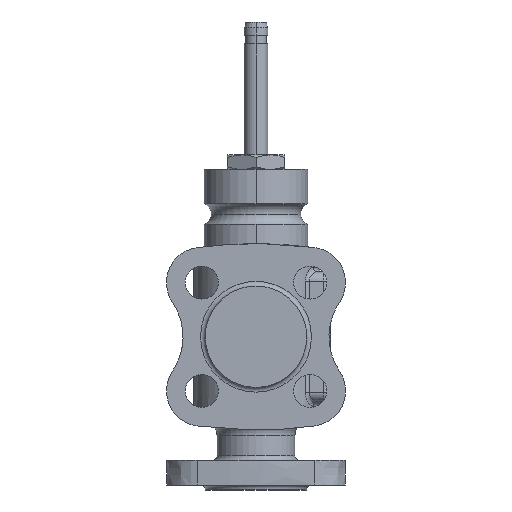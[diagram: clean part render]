
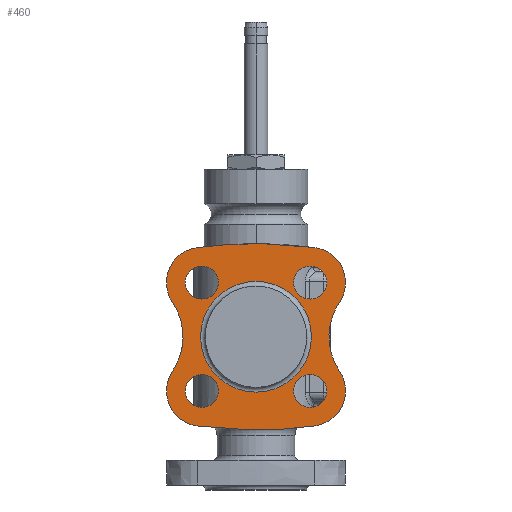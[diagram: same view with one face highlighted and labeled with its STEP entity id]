
A CAD part, left-side view. The second image highlights one B-rep face of the part: STEP entity #460.
In plain terms, the highlighted planar face has unit normal (-1, 0, 0).
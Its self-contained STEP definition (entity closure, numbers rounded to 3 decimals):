
#460=ADVANCED_FACE('',(#714,#715,#716,#717,#718,#719),#599,.T.);
#599=PLANE('',#2258);
#630=B_SPLINE_CURVE_WITH_KNOTS('',3,(#3099,#3100,#3101,#3102),
 .UNSPECIFIED.,.F.,.F.,(4,4),(0.,1.),.UNSPECIFIED.);
#631=B_SPLINE_CURVE_WITH_KNOTS('',3,(#3105,#3106,#3107,#3108,#3109,#3110),
 .UNSPECIFIED.,.F.,.F.,(4,2,4),(0.,0.5,1.),.UNSPECIFIED.);
#632=B_SPLINE_CURVE_WITH_KNOTS('',3,(#3112,#3113,#3114,#3115,#3116,#3117),
 .UNSPECIFIED.,.F.,.F.,(4,2,4),(0.,0.5,1.),.UNSPECIFIED.);
#633=B_SPLINE_CURVE_WITH_KNOTS('',3,(#3119,#3120,#3121,#3122,#3123,#3124),
 .UNSPECIFIED.,.F.,.F.,(4,2,4),(0.,0.5,1.),.UNSPECIFIED.);
#634=B_SPLINE_CURVE_WITH_KNOTS('',3,(#3126,#3127,#3128,#3129),
 .UNSPECIFIED.,.F.,.F.,(4,4),(0.,1.),.UNSPECIFIED.);
#635=B_SPLINE_CURVE_WITH_KNOTS('',3,(#3131,#3132,#3133,#3134,#3135,#3136),
 .UNSPECIFIED.,.F.,.F.,(4,2,4),(0.,0.5,1.),.UNSPECIFIED.);
#636=B_SPLINE_CURVE_WITH_KNOTS('',3,(#3138,#3139,#3140,#3141,#3142,#3143),
 .UNSPECIFIED.,.F.,.F.,(4,2,4),(0.,0.5,1.),.UNSPECIFIED.);
#637=B_SPLINE_CURVE_WITH_KNOTS('',3,(#3145,#3146,#3147,#3148,#3149,#3150),
 .UNSPECIFIED.,.F.,.F.,(4,2,4),(0.,0.5,1.),.UNSPECIFIED.);
#714=FACE_BOUND('',#822,.T.);
#715=FACE_BOUND('',#823,.T.);
#716=FACE_BOUND('',#824,.T.);
#717=FACE_BOUND('',#825,.T.);
#718=FACE_BOUND('',#826,.T.);
#719=FACE_BOUND('',#827,.T.);
#822=EDGE_LOOP('',(#1028));
#823=EDGE_LOOP('',(#1029));
#824=EDGE_LOOP('',(#1030));
#825=EDGE_LOOP('',(#1031));
#826=EDGE_LOOP('',(#1032));
#827=EDGE_LOOP('',(#1033,#1034,#1035,#1036,#1037,#1038,#1039,#1040));
#1028=ORIENTED_EDGE('',*,*,#1822,.F.);
#1029=ORIENTED_EDGE('',*,*,#1823,.F.);
#1030=ORIENTED_EDGE('',*,*,#1824,.F.);
#1031=ORIENTED_EDGE('',*,*,#1825,.F.);
#1032=ORIENTED_EDGE('',*,*,#1826,.T.);
#1033=ORIENTED_EDGE('',*,*,#1827,.T.);
#1034=ORIENTED_EDGE('',*,*,#1828,.T.);
#1035=ORIENTED_EDGE('',*,*,#1829,.T.);
#1036=ORIENTED_EDGE('',*,*,#1830,.T.);
#1037=ORIENTED_EDGE('',*,*,#1831,.T.);
#1038=ORIENTED_EDGE('',*,*,#1832,.T.);
#1039=ORIENTED_EDGE('',*,*,#1833,.T.);
#1040=ORIENTED_EDGE('',*,*,#1834,.T.);
#1620=VERTEX_POINT('',#3090);
#1621=VERTEX_POINT('',#3092);
#1622=VERTEX_POINT('',#3094);
#1623=VERTEX_POINT('',#3096);
#1624=VERTEX_POINT('',#3098);
#1625=VERTEX_POINT('',#3103);
#1626=VERTEX_POINT('',#3104);
#1627=VERTEX_POINT('',#3111);
#1628=VERTEX_POINT('',#3118);
#1629=VERTEX_POINT('',#3125);
#1630=VERTEX_POINT('',#3130);
#1631=VERTEX_POINT('',#3137);
#1632=VERTEX_POINT('',#3144);
#1822=EDGE_CURVE('',#1620,#1620,#2118,.T.);
#1823=EDGE_CURVE('',#1621,#1621,#2119,.T.);
#1824=EDGE_CURVE('',#1622,#1622,#2120,.T.);
#1825=EDGE_CURVE('',#1623,#1623,#2121,.T.);
#1826=EDGE_CURVE('',#1624,#1624,#2122,.T.);
#1827=EDGE_CURVE('',#1625,#1626,#630,.T.);
#1828=EDGE_CURVE('',#1626,#1627,#631,.T.);
#1829=EDGE_CURVE('',#1627,#1628,#632,.T.);
#1830=EDGE_CURVE('',#1628,#1629,#633,.T.);
#1831=EDGE_CURVE('',#1629,#1630,#634,.T.);
#1832=EDGE_CURVE('',#1630,#1631,#635,.T.);
#1833=EDGE_CURVE('',#1631,#1632,#636,.T.);
#1834=EDGE_CURVE('',#1632,#1625,#637,.T.);
#2118=CIRCLE('',#2253,7.);
#2119=CIRCLE('',#2254,7.);
#2120=CIRCLE('',#2255,7.);
#2121=CIRCLE('',#2256,7.);
#2122=CIRCLE('',#2257,23.5);
#2253=AXIS2_PLACEMENT_3D('',#3089,#2496,#2497);
#2254=AXIS2_PLACEMENT_3D('',#3091,#2498,#2499);
#2255=AXIS2_PLACEMENT_3D('',#3093,#2500,#2501);
#2256=AXIS2_PLACEMENT_3D('',#3095,#2502,#2503);
#2257=AXIS2_PLACEMENT_3D('',#3097,#2504,#2505);
#2258=AXIS2_PLACEMENT_3D('',#3151,#2506,#2507);
#2496=DIRECTION('',(-1.,0.,0.));
#2497=DIRECTION('',(0.,0.,1.));
#2498=DIRECTION('',(-1.,0.,0.));
#2499=DIRECTION('',(0.,-1.,0.));
#2500=DIRECTION('',(-1.,0.,0.));
#2501=DIRECTION('',(0.,0.,-1.));
#2502=DIRECTION('',(-1.,0.,0.));
#2503=DIRECTION('',(0.,1.,0.));
#2504=DIRECTION('',(1.,0.,0.));
#2505=DIRECTION('',(0.,0.,1.));
#2506=DIRECTION('',(-1.,0.,0.));
#2507=DIRECTION('',(0.,0.,1.));
#3089=CARTESIAN_POINT('',(127.5,22.981,22.981));
#3090=CARTESIAN_POINT('',(127.5,22.981,29.981));
#3091=CARTESIAN_POINT('',(127.5,-22.981,22.981));
#3092=CARTESIAN_POINT('',(127.5,-29.981,22.981));
#3093=CARTESIAN_POINT('',(127.5,-22.981,-22.981));
#3094=CARTESIAN_POINT('',(127.5,-22.981,-29.981));
#3095=CARTESIAN_POINT('',(127.5,22.981,-22.981));
#3096=CARTESIAN_POINT('',(127.5,29.981,-22.981));
#3097=CARTESIAN_POINT('',(127.5,0.,0.));
#3098=CARTESIAN_POINT('',(127.5,0.,23.5));
#3099=CARTESIAN_POINT('',(127.5,-24.951,37.851));
#3100=CARTESIAN_POINT('',(127.5,-8.398,40.044));
#3101=CARTESIAN_POINT('',(127.5,8.398,40.044));
#3102=CARTESIAN_POINT('',(127.5,24.951,37.851));
#3103=CARTESIAN_POINT('',(127.5,-24.951,37.851));
#3104=CARTESIAN_POINT('',(127.5,24.951,37.851));
#3105=CARTESIAN_POINT('',(127.5,24.951,37.851));
#3106=CARTESIAN_POINT('',(127.5,30.041,37.177));
#3107=CARTESIAN_POINT('',(127.5,34.565,33.804));
#3108=CARTESIAN_POINT('',(127.5,38.767,24.443));
#3109=CARTESIAN_POINT('',(127.5,38.281,18.825));
#3110=CARTESIAN_POINT('',(127.5,35.403,14.573));
#3111=CARTESIAN_POINT('',(127.5,35.403,14.573));
#3112=CARTESIAN_POINT('',(127.5,35.403,14.573));
#3113=CARTESIAN_POINT('',(127.5,32.488,10.266));
#3114=CARTESIAN_POINT('',(127.5,30.94,5.171));
#3115=CARTESIAN_POINT('',(127.5,30.93,-5.123));
#3116=CARTESIAN_POINT('',(127.5,32.488,-10.266));
#3117=CARTESIAN_POINT('',(127.5,35.403,-14.573));
#3118=CARTESIAN_POINT('',(127.5,35.403,-14.573));
#3119=CARTESIAN_POINT('',(127.5,35.403,-14.573));
#3120=CARTESIAN_POINT('',(127.5,38.281,-18.825));
#3121=CARTESIAN_POINT('',(127.5,38.766,-24.448));
#3122=CARTESIAN_POINT('',(127.5,34.562,-33.807));
#3123=CARTESIAN_POINT('',(127.5,30.041,-37.177));
#3124=CARTESIAN_POINT('',(127.5,24.951,-37.851));
#3125=CARTESIAN_POINT('',(127.5,24.951,-37.851));
#3126=CARTESIAN_POINT('',(127.5,24.951,-37.851));
#3127=CARTESIAN_POINT('',(127.5,8.398,-40.044));
#3128=CARTESIAN_POINT('',(127.5,-8.398,-40.044));
#3129=CARTESIAN_POINT('',(127.5,-24.951,-37.851));
#3130=CARTESIAN_POINT('',(127.5,-24.951,-37.851));
#3131=CARTESIAN_POINT('',(127.5,-24.951,-37.851));
#3132=CARTESIAN_POINT('',(127.5,-30.04,-37.177));
#3133=CARTESIAN_POINT('',(127.5,-34.564,-33.804));
#3134=CARTESIAN_POINT('',(127.5,-38.766,-24.444));
#3135=CARTESIAN_POINT('',(127.5,-38.281,-18.826));
#3136=CARTESIAN_POINT('',(127.5,-35.403,-14.573));
#3137=CARTESIAN_POINT('',(127.5,-35.403,-14.573));
#3138=CARTESIAN_POINT('',(127.5,-35.403,-14.573));
#3139=CARTESIAN_POINT('',(127.5,-32.488,-10.266));
#3140=CARTESIAN_POINT('',(127.5,-30.94,-5.171));
#3141=CARTESIAN_POINT('',(127.5,-30.93,5.123));
#3142=CARTESIAN_POINT('',(127.5,-32.488,10.266));
#3143=CARTESIAN_POINT('',(127.5,-35.403,14.573));
#3144=CARTESIAN_POINT('',(127.5,-35.403,14.573));
#3145=CARTESIAN_POINT('',(127.5,-35.403,14.573));
#3146=CARTESIAN_POINT('',(127.5,-38.281,18.825));
#3147=CARTESIAN_POINT('',(127.5,-38.766,24.447));
#3148=CARTESIAN_POINT('',(127.5,-34.562,33.807));
#3149=CARTESIAN_POINT('',(127.5,-30.041,37.177));
#3150=CARTESIAN_POINT('',(127.5,-24.951,37.851));
#3151=CARTESIAN_POINT('',(127.5,0.,0.));
